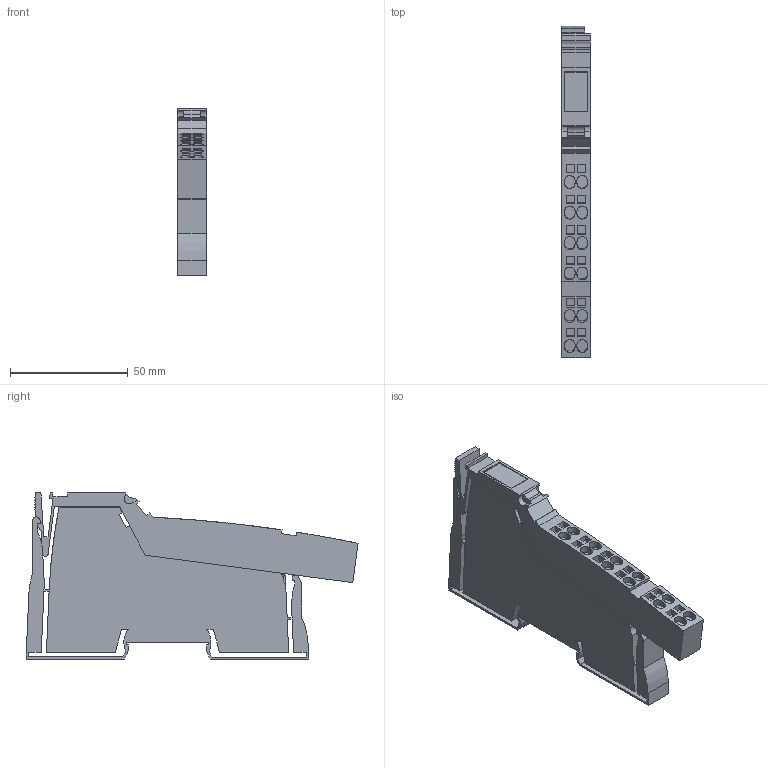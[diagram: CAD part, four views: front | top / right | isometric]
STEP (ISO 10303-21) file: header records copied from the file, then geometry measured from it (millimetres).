
FILE_DESCRIPTION( ( '' ), '1' );
FILE_NAME( '//SERVER/Users/WC000/WC011/WORKING/DEV/V 1-00/KS Vario/KS Vario - MOD3 - CC - 01.stp', '2017-03-04T16:52:33', ( 'KPM' ), ( 'KMC Design' ), 'PSStep 17.0.49', ' ', ' ' );
FILE_SCHEMA( ( 'AUTOMOTIVE_DESIGN { 1 0 10303 214 1 1 1 1 }' ) );
Length unit declared in the file: millimetre
Products named in the file (3): Assem1; VARIO TERMINAL BLOCK, 12W; VARIO MODULE BASE
Assembly tree (2 placements, depth 2):
  Assem1
    VARIO TERMINAL BLOCK, 12W
    VARIO MODULE BASE
Bounding box: 12.15 x 140.86 x 70.48 mm (x, y, z)
Volume: 79702.3 mm3; surface area: 29549.8 mm2
Topology: 2 solids, 2 shells, 321 faces, 988 edges, 702 vertices
Faces by surface type: plane 273, cylinder 41, bspline 7
Entity records: 15551 total; most frequent: CARTESIAN_POINT 4228, ORIENTED_EDGE 1976, DIRECTION 1560, EDGE_CURVE 988, VERTEX_POINT 702, LINE 698, VECTOR 698, AXIS2_PLACEMENT_3D 431
